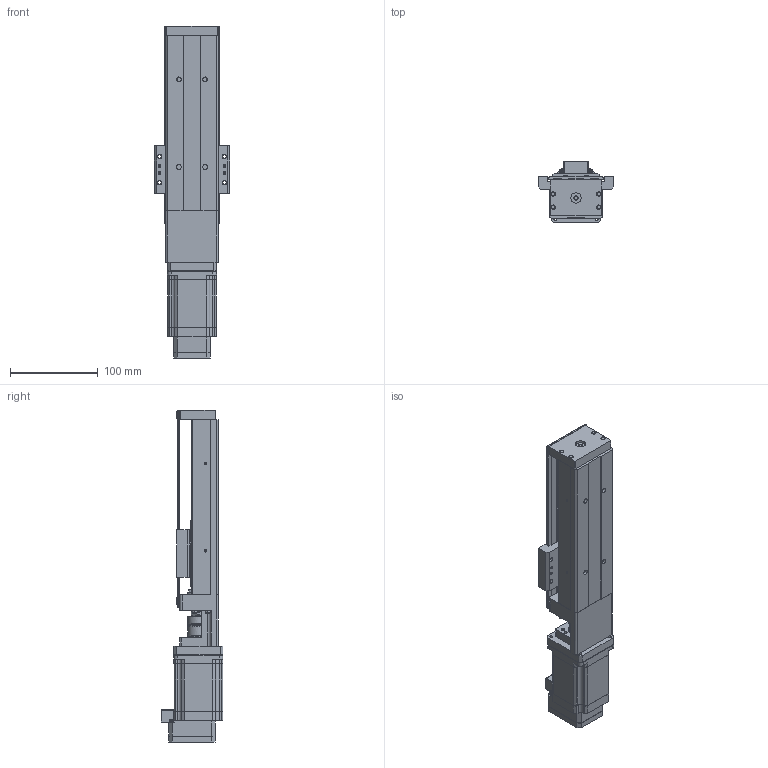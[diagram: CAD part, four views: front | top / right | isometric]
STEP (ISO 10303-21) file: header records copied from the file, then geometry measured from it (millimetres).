
FILE_DESCRIPTION (( 'STEP AP214' ), '1' );
FILE_NAME ('PA33-A-06-100-S-10A0-23L20-X.STEP', '2015-01-06T14:53:30', ( '' ), ( '' ), 'SwSTEP 2.0', 'SolidWorks 2015', '' );
FILE_SCHEMA (( 'AUTOMOTIVE_DESIGN' ));
Length unit declared in the file: millimetre
Products named in the file (5): PA33-A-06-100-S-10A0-23L20-X; PA33-A-06-100-S-10A0; RCLA25C-10-10; PA33-SPA33-PA30_to_NEMA23-Bracket-REV1; CM1-X-23L20-NE-RENDER
Assembly tree (4 placements, depth 2):
  PA33-A-06-100-S-10A0-23L20-X
    CM1-X-23L20-NE-RENDER
    PA33-SPA33-PA30_to_NEMA23-Bracket-REV1
    RCLA25C-10-10
    PA33-A-06-100-S-10A0
Bounding box: 86 x 70.81 x 379.3 mm (x, y, z)
Volume: 717400.6 mm3; surface area: 193270.7 mm2
Topology: 7 solids, 8 shells, 1841 faces, 5006 edges, 3222 vertices
Faces by surface type: plane 1059, cylinder 599, cone 147, torus 28, bspline 6, sphere 2
Entity records: 69441 total; most frequent: CARTESIAN_POINT 10972, DIRECTION 9991, ORIENTED_EDGE 9932, EDGE_CURVE 4966, LINE 3453, VECTOR 3453, AXIS2_PLACEMENT_3D 3269, VERTEX_POINT 3220
